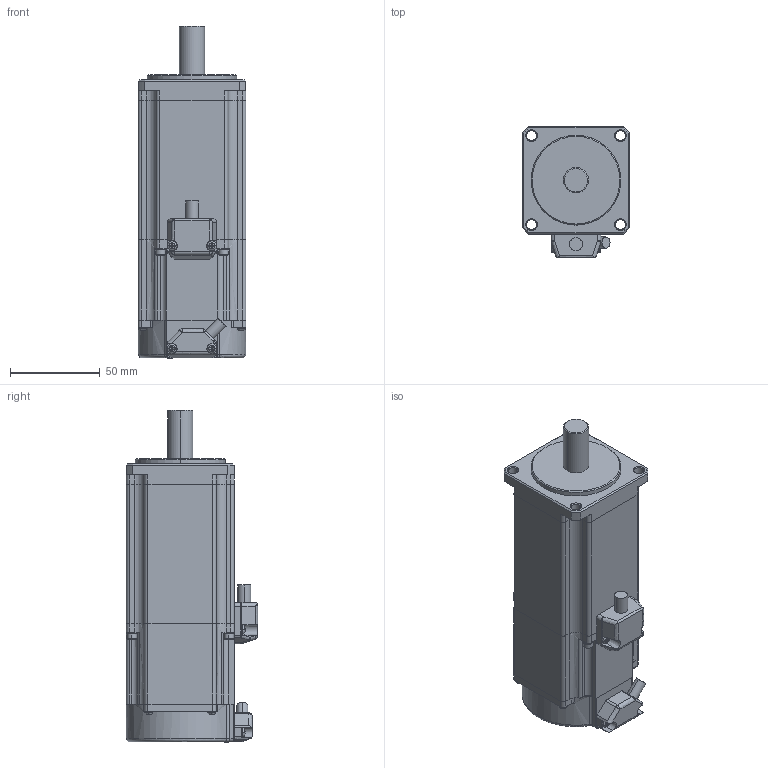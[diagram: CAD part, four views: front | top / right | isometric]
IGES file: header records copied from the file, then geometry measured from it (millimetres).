
Start section: Elysium IGES Interface
Global section: file name: 79H\\nas63\design\04MC研\saka\3DCAD\TBL-i2カタログまとめ\PKGデータ\TS4610_BK有.igs; native system: Creo Elements/Direct Modeling 17.0F  20-Aug-2012; preprocessor: Creo Element/Direct IGES_3D V2.2; author: Unknown; organization: Unknown; date: 20161222.164216; units: millimetre
Bounding box: 60 x 73 x 184.7 mm (x, y, z)
Volume: 508311.8 mm3; surface area: 45655.7 mm2
Topology: 1 solids, 1 shells, 675 faces, 1542 edges, 864 vertices
Faces by surface type: bspline 675
